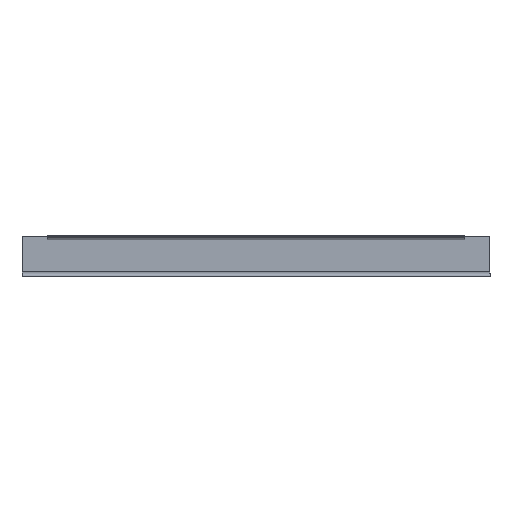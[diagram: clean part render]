
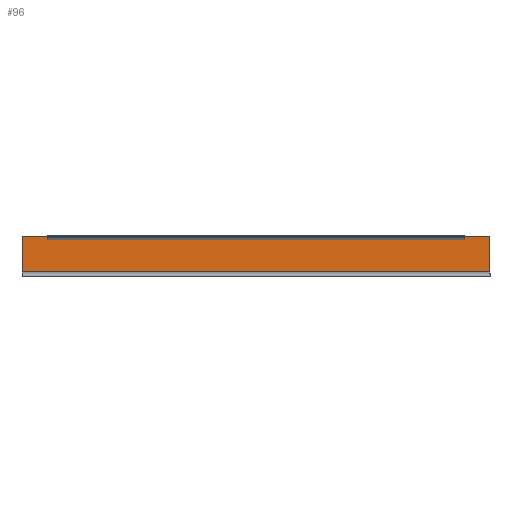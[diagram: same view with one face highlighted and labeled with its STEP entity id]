
A CAD part, left-side view. The second image highlights one B-rep face of the part: STEP entity #96.
In plain terms, the highlighted planar face has unit normal (-1, 0, 0).
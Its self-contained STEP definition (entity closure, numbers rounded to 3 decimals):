
#19 = ORIENTED_EDGE ( 'NONE', *, *, #571, .T. ) ;
#20 = ORIENTED_EDGE ( 'NONE', *, *, #566, .F. ) ;
#39 = ORIENTED_EDGE ( 'NONE', *, *, #589, .T. ) ;
#41 = ORIENTED_EDGE ( 'NONE', *, *, #599, .F. ) ;
#46 = ORIENTED_EDGE ( 'NONE', *, *, #573, .F. ) ;
#47 = ORIENTED_EDGE ( 'NONE', *, *, #592, .T. ) ;
#79 = ORIENTED_EDGE ( 'NONE', *, *, #572, .F. ) ;
#96 = ADVANCED_FACE ( 'NONE', ( #156 ), #312, .T. ) ;
#119 = ORIENTED_EDGE ( 'NONE', *, *, #569, .T. ) ;
#127 = EDGE_LOOP ( 'NONE', ( #46, #47, #20, #41, #79, #39, #19, #119 ) ) ;
#156 = FACE_OUTER_BOUND ( 'NONE', #127, .T. ) ;
#190 = VECTOR ( 'NONE', #463, 1000. ) ;
#199 = LINE ( 'NONE', #462, #190 ) ;
#202 = LINE ( 'NONE', #456, #203 ) ;
#203 = VECTOR ( 'NONE', #457, 1000. ) ;
#205 = LINE ( 'NONE', #464, #215 ) ;
#211 = LINE ( 'NONE', #466, #212 ) ;
#212 = VECTOR ( 'NONE', #467, 1000. ) ;
#213 = LINE ( 'NONE', #469, #214 ) ;
#214 = VECTOR ( 'NONE', #470, 1000. ) ;
#215 = VECTOR ( 'NONE', #472, 1000. ) ;
#242 = LINE ( 'NONE', #506, #243 ) ;
#243 = VECTOR ( 'NONE', #507, 1000. ) ;
#245 = LINE ( 'NONE', #512, #246 ) ;
#246 = VECTOR ( 'NONE', #513, 1000. ) ;
#259 = LINE ( 'NONE', #527, #260 ) ;
#260 = VECTOR ( 'NONE', #528, 1000. ) ;
#299 = DIRECTION ( 'NONE',  ( 0., 0., -1. ) ) ;
#300 = DIRECTION ( 'NONE',  ( -1., 0., 0. ) ) ;
#309 = CARTESIAN_POINT ( 'NONE',  ( 6.024, 629.5, -9.925 ) ) ;
#312 = PLANE ( 'NONE',  #610 ) ;
#334 = VERTEX_POINT ( 'NONE', #382 ) ;
#335 = VERTEX_POINT ( 'NONE', #387 ) ;
#349 = VERTEX_POINT ( 'NONE', #397 ) ;
#350 = VERTEX_POINT ( 'NONE', #398 ) ;
#355 = VERTEX_POINT ( 'NONE', #403 ) ;
#356 = VERTEX_POINT ( 'NONE', #404 ) ;
#360 = VERTEX_POINT ( 'NONE', #408 ) ;
#369 = VERTEX_POINT ( 'NONE', #415 ) ;
#382 = CARTESIAN_POINT ( 'NONE',  ( 6.024, 629.5, -51.31 ) ) ;
#387 = CARTESIAN_POINT ( 'NONE',  ( 6.024, 0., -51.31 ) ) ;
#397 = CARTESIAN_POINT ( 'NONE',  ( 6.024, 34., -8.71 ) ) ;
#398 = CARTESIAN_POINT ( 'NONE',  ( 6.024, 0., -4.106 ) ) ;
#403 = CARTESIAN_POINT ( 'NONE',  ( 6.024, 629.5, -4.106 ) ) ;
#404 = CARTESIAN_POINT ( 'NONE',  ( 6.024, 34., -4.106 ) ) ;
#408 = CARTESIAN_POINT ( 'NONE',  ( 6.024, 595.5, -4.106 ) ) ;
#415 = CARTESIAN_POINT ( 'NONE',  ( 6.024, 595.5, -8.71 ) ) ;
#456 = CARTESIAN_POINT ( 'NONE',  ( 6.024, 34., -2.932 ) ) ;
#457 = DIRECTION ( 'NONE',  ( 0., 0., 1. ) ) ;
#462 = CARTESIAN_POINT ( 'NONE',  ( 6.024, 629.5, -51.31 ) ) ;
#463 = DIRECTION ( 'NONE',  ( 0., -1., 0. ) ) ;
#464 = CARTESIAN_POINT ( 'NONE',  ( 6.024, 0., -9.925 ) ) ;
#466 = CARTESIAN_POINT ( 'NONE',  ( 6.024, 629.5, -8.71 ) ) ;
#467 = DIRECTION ( 'NONE',  ( 0., 0., -1. ) ) ;
#469 = CARTESIAN_POINT ( 'NONE',  ( 6.024, 595.5, -2.932 ) ) ;
#470 = DIRECTION ( 'NONE',  ( 0., 0., -1. ) ) ;
#472 = DIRECTION ( 'NONE',  ( 0., 0., -1. ) ) ;
#506 = CARTESIAN_POINT ( 'NONE',  ( 6.024, 629.5, -4.106 ) ) ;
#507 = DIRECTION ( 'NONE',  ( 0., 1., 0. ) ) ;
#512 = CARTESIAN_POINT ( 'NONE',  ( 6.024, 629.5, -4.106 ) ) ;
#513 = DIRECTION ( 'NONE',  ( 0., 1., 0. ) ) ;
#527 = CARTESIAN_POINT ( 'NONE',  ( 6.024, 629.5, -8.71 ) ) ;
#528 = DIRECTION ( 'NONE',  ( 0., -1., 0. ) ) ;
#566 = EDGE_CURVE ( 'NONE', #349, #356, #202, .T. ) ;
#569 = EDGE_CURVE ( 'NONE', #334, #335, #199, .T. ) ;
#571 = EDGE_CURVE ( 'NONE', #355, #334, #211, .T. ) ;
#572 = EDGE_CURVE ( 'NONE', #360, #369, #213, .T. ) ;
#573 = EDGE_CURVE ( 'NONE', #350, #335, #205, .T. ) ;
#589 = EDGE_CURVE ( 'NONE', #360, #355, #242, .T. ) ;
#592 = EDGE_CURVE ( 'NONE', #350, #356, #245, .T. ) ;
#599 = EDGE_CURVE ( 'NONE', #369, #349, #259, .T. ) ;
#610 = AXIS2_PLACEMENT_3D ( 'NONE', #309, #300, #299 ) ;
